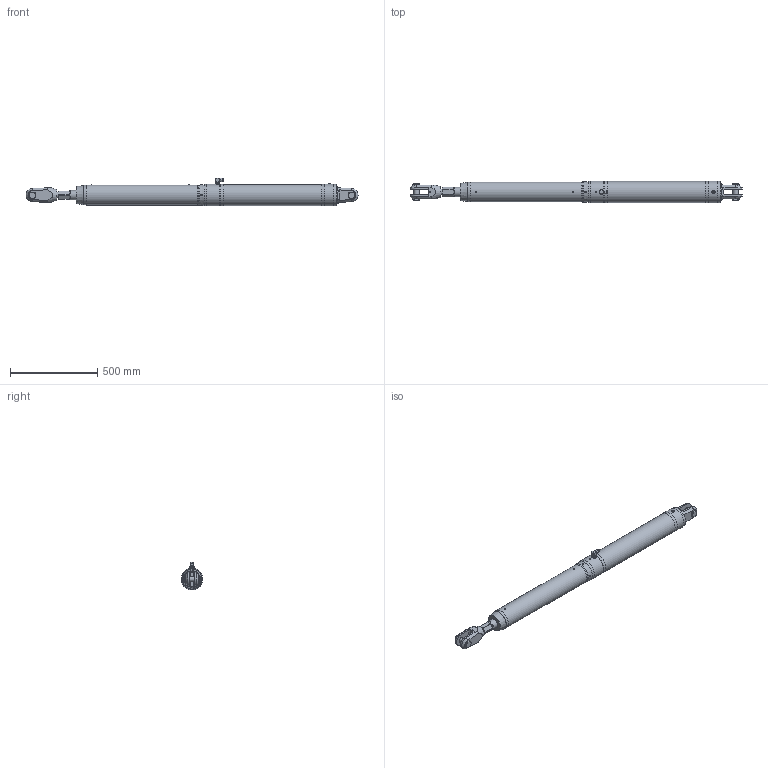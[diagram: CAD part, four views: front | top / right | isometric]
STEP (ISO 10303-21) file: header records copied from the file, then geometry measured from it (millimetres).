
FILE_DESCRIPTION(/* description */ (''),/* implementation_level */ '2;1');
FILE_NAME(/* name */ 'Q:\AA BRAND HYDRAULICS\HYDRAULICS FAMILY DIRECTORY\HYDRAULICS\CYLINDERS\MECHANICAL LOCK RAMS\ALUMINIUM - STAINLESS SINGLE ACTING (-0012 To -0150)\MSA-0076-S0550-NP-71\MSA-0076-S0550-NP-71 (Closed).stp',/* time_stamp */ '2018-04-25T16:59:29+01:00',/* author */ ('Lorena'),/* organization */ (''),/* preprocessor_version */ 'ST-DEVELOPER v17',/* originating_system */ 'Autodesk Inventor 2018',/* authorisation */ '');
FILE_SCHEMA (('AUTOMOTIVE_DESIGN { 1 0 10303 214 3 1 1 }'));
Length unit declared in the file: millimetre
Products named in the file (1): MSA-0076-S0550-NP-71 (Closed)
Bounding box: 1901.7 x 123.6 x 159.15 mm (x, y, z)
Volume: 17593544.1 mm3; surface area: 710940.1 mm2
Topology: 2 solids, 4 shells, 495 faces, 1299 edges, 847 vertices
Faces by surface type: plane 280, cone 124, cylinder 77, torus 6, sphere 4, bspline 4
Full cylindrical faces by diameter (mm): 4 x1, 4.134 x1, 4.2 x2, 5 x3, 7 x1, 7.5 x1, 8 x4, 8.1 x1, 9 x1, 10 x2, 14 x1, 14.35 x1, 14.662 x1, 15 x2, 15.25 x1, 15.662 x1, 16.662 x2, 18 x2, 20 x2, 21.4 x3, 25 x1, 31.75 x2, 34.25 x1, 39.688 x2, 53 x2, 54 x2, 57 x1, 114 x1, 120.6 x1, 123.6 x4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
Entity records: 16713 total; most frequent: CARTESIAN_POINT 4129, ORIENTED_EDGE 2580, DIRECTION 2510, EDGE_CURVE 1290, AXIS2_PLACEMENT_3D 963, VERTEX_POINT 848, LINE 584, VECTOR 584
